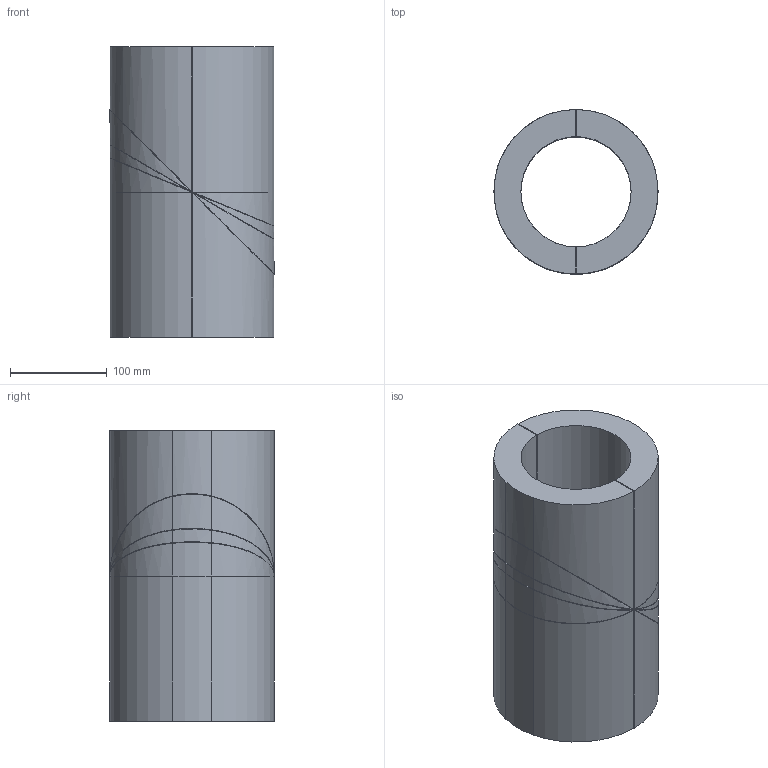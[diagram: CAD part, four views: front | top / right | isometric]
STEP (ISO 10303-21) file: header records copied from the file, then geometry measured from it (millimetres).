
FILE_DESCRIPTION(/* description */ (''),/* implementation_level */ '2;1');
FILE_NAME(/* name */ 'Z:\Geberit\Export\NewStep\308820.stp',/* time_stamp */ '2014-04-01T20:06:24+02:00',/* author */ ('bruh'),/* organization */ (''),/* preprocessor_version */ 'ST-DEVELOPER v15.2',/* originating_system */ 'Autodesk Inventor 2014',/* authorisation */ '');
FILE_SCHEMA (('AUTOMOTIVE_DESIGN { 1 0 10303 214 3 1 1 }'));
Length unit declared in the file: millimetre
Products named in the file (1): 308820
Bounding box: 169.5 x 170 x 300 mm (x, y, z)
Volume: 3704087.8 mm3; surface area: 439210.1 mm2
Topology: 10 solids, 10 shells, 116 faces, 288 edges, 192 vertices
Faces by surface type: plane 56, cylinder 40, bspline 20
Entity records: 3684 total; most frequent: CARTESIAN_POINT 721, DIRECTION 622, ORIENTED_EDGE 576, EDGE_CURVE 288, AXIS2_PLACEMENT_3D 237, VERTEX_POINT 192, LINE 148, VECTOR 148
